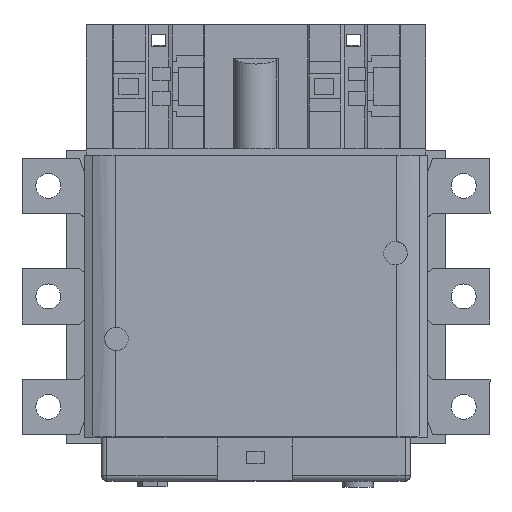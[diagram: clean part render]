
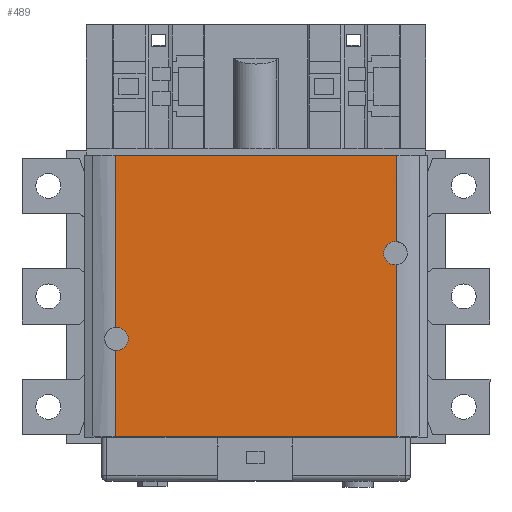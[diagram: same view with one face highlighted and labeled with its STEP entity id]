
A CAD part, top view. The second image highlights one B-rep face of the part: STEP entity #489.
In plain terms, the highlighted planar face has unit normal (0, 0, 1).
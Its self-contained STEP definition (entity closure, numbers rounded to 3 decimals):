
#350=CIRCLE('',#11250,4.25);
#351=CIRCLE('',#11251,4.25);
#489=ADVANCED_FACE('',(#1554),#1063,.F.);
#1063=PLANE('',#11252);
#1554=FACE_OUTER_BOUND('',#2083,.T.);
#2083=EDGE_LOOP('',(#2913,#2914,#2915,#2916,#2917,#2918,#2919,#2920));
#2913=ORIENTED_EDGE('',*,*,#7051,.F.);
#2914=ORIENTED_EDGE('',*,*,#7052,.T.);
#2915=ORIENTED_EDGE('',*,*,#6936,.F.);
#2916=ORIENTED_EDGE('',*,*,#7053,.T.);
#2917=ORIENTED_EDGE('',*,*,#7054,.F.);
#2918=ORIENTED_EDGE('',*,*,#7055,.T.);
#2919=ORIENTED_EDGE('',*,*,#7045,.F.);
#2920=ORIENTED_EDGE('',*,*,#7056,.T.);
#5899=VERTEX_POINT('',#14964);
#5900=VERTEX_POINT('',#14966);
#5996=VERTEX_POINT('',#15177);
#5997=VERTEX_POINT('',#15179);
#6001=VERTEX_POINT('',#15190);
#6002=VERTEX_POINT('',#15191);
#6003=VERTEX_POINT('',#15194);
#6004=VERTEX_POINT('',#15196);
#6936=EDGE_CURVE('',#5899,#5900,#8491,.T.);
#7045=EDGE_CURVE('',#5996,#5997,#8592,.T.);
#7051=EDGE_CURVE('',#6001,#6002,#350,.T.);
#7052=EDGE_CURVE('',#6001,#5900,#8597,.T.);
#7053=EDGE_CURVE('',#5899,#6003,#8598,.T.);
#7054=EDGE_CURVE('',#6004,#6003,#351,.T.);
#7055=EDGE_CURVE('',#6004,#5997,#8599,.T.);
#7056=EDGE_CURVE('',#5996,#6002,#8600,.T.);
#8491=LINE('',#14965,#9887);
#8592=LINE('',#15178,#9988);
#8597=LINE('',#15192,#9993);
#8598=LINE('',#15193,#9994);
#8599=LINE('',#15197,#9995);
#8600=LINE('',#15198,#9996);
#9887=VECTOR('',#12048,1.);
#9988=VECTOR('',#12179,1.);
#9993=VECTOR('',#12190,1.);
#9994=VECTOR('',#12191,1.);
#9995=VECTOR('',#12194,1.);
#9996=VECTOR('',#12195,1.);
#11250=AXIS2_PLACEMENT_3D('',#15189,#12188,#12189);
#11251=AXIS2_PLACEMENT_3D('',#15195,#12192,#12193);
#11252=AXIS2_PLACEMENT_3D('',#15199,#12196,#12197);
#12048=DIRECTION('',(-1.,0.,0.));
#12179=DIRECTION('',(1.,0.,0.));
#12188=DIRECTION('',(0.,0.,1.));
#12189=DIRECTION('',(1.,0.,0.));
#12190=DIRECTION('',(0.,-1.,0.));
#12191=DIRECTION('',(0.,1.,0.));
#12192=DIRECTION('',(0.,0.,1.));
#12193=DIRECTION('',(-1.,0.,0.));
#12194=DIRECTION('',(0.,1.,0.));
#12195=DIRECTION('',(0.,-1.,0.));
#12196=DIRECTION('',(0.,0.,-1.));
#12197=DIRECTION('',(1.,0.,0.));
#14964=CARTESIAN_POINT('',(50.938,-51.,0.));
#14965=CARTESIAN_POINT('',(50.938,-51.,0.));
#14966=CARTESIAN_POINT('',(-50.938,-51.,0.));
#15177=CARTESIAN_POINT('',(-50.938,51.,0.));
#15178=CARTESIAN_POINT('',(50.938,51.,0.));
#15179=CARTESIAN_POINT('',(50.938,51.,0.));
#15189=CARTESIAN_POINT('',(-50.5,-15.5,0.));
#15190=CARTESIAN_POINT('',(-50.938,-19.727,0.));
#15191=CARTESIAN_POINT('',(-50.938,-11.273,0.));
#15192=CARTESIAN_POINT('',(-50.938,-51.5,0.));
#15193=CARTESIAN_POINT('',(50.938,-51.5,0.));
#15194=CARTESIAN_POINT('',(50.938,11.273,0.));
#15195=CARTESIAN_POINT('',(50.5,15.5,0.));
#15196=CARTESIAN_POINT('',(50.938,19.727,0.));
#15197=CARTESIAN_POINT('',(50.938,-51.5,0.));
#15198=CARTESIAN_POINT('',(-50.938,-51.5,0.));
#15199=CARTESIAN_POINT('',(50.938,-51.5,0.));
